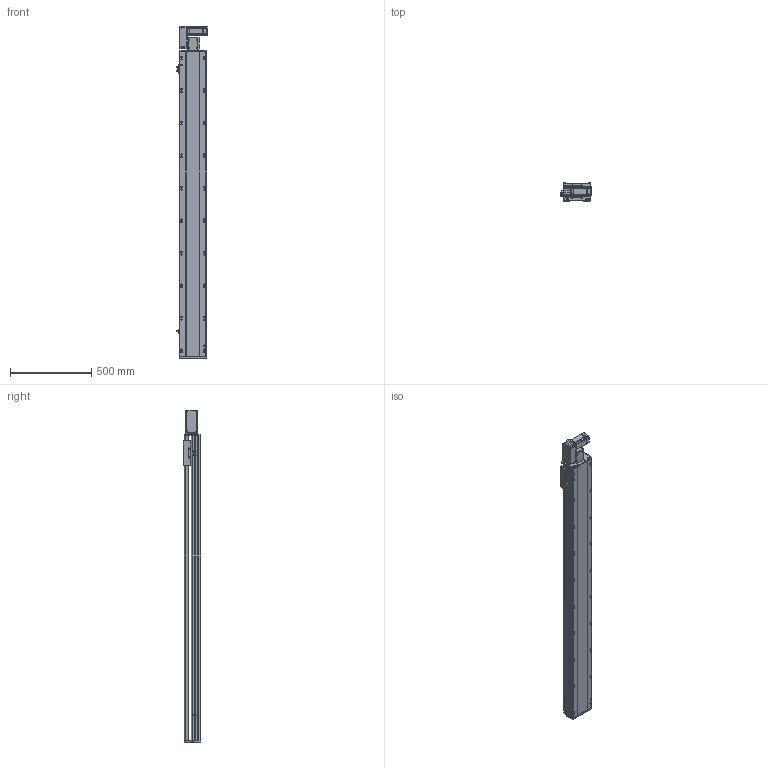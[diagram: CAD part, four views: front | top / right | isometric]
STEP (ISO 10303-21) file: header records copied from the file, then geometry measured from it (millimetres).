
FILE_DESCRIPTION (( 'STEP AP214' ), '1' );
FILE_NAME ('RTB17S-XX-1600-L-M40-C4.STEP', '2025-12-11T05:46:57', ( '' ), ( '' ), 'SwSTEP 2.0', 'SolidWorks 2018', '' );
FILE_SCHEMA (( 'AUTOMOTIVE_DESIGN' ));
Length unit declared in the file: millimetre
Products named in the file (14): RTB17S-XX-1600-L-M40-C4; RMP17S-L-014-T20--皮带座^RTB17S-L-皮带座装配-400W_RTB17S-XX-XX-L-M40-C4（方程式）; RTB17S-L-004丝杆螺母连接座^RTB17S-XX-XX-L-M40-C4（方程式）; RTB14-L-017P^RTB17S-L-皮带座装配-400W_RTB17S-XX-XX-L-M40-C4（方程式）; RTB17S-L-001侧面板^RTB17S-XX-XX-L-M40-C4（方程式）; RTB14-L-005P--轴承塑胶压盖^RTB17S-L-皮带座装配-400W_RTB17S-XX-XX-L-M40-C4（方程式）; RTB17S-L-007上盖^RTB17S-XX-XX-L-M40-C4（方程式）; 400W伺服电机^RTB17S-XX-XX-L-M40-C4（方程式）; RTB14-L-018P^RTB17S-L-皮带座装配-400W_RTB17S-XX-XX-L-M40-C4（方程式）; RTB17-R-011底座^RTB17S-XX-XX-L-M40-C4（方程式）; RTH13-BL-012感应片外置^RTB17S-XX-XX-L-M40-C4（方程式）; RTB17S-L-皮带座装配-400W^RTB17S-XX-XX-L-M40-C4（方程式）; OMRON EE-SX672 传感器^RTB17S-XX-XX-L-M40-C4（方程式）; RTB14-L-008-M20--电机板^RTB17S-L-皮带座装配-400W_RTB17S-XX-XX-L-M40-C4（方程式）
Assembly tree (16 placements, depth 3):
  RTB17S-XX-1600-L-M40-C4
    RTB17-R-011底座^RTB17S-XX-XX-L-M40-C4（方程式）
    RTB17S-L-007上盖^RTB17S-XX-XX-L-M40-C4（方程式）
    OMRON EE-SX672 传感器^RTB17S-XX-XX-L-M40-C4（方程式）  x3
    RTB17S-L-001侧面板^RTB17S-XX-XX-L-M40-C4（方程式）
    400W伺服电机^RTB17S-XX-XX-L-M40-C4（方程式）
    RTB17S-L-004丝杆螺母连接座^RTB17S-XX-XX-L-M40-C4（方程式）
    RTH13-BL-012感应片外置^RTB17S-XX-XX-L-M40-C4（方程式）
    RTB17S-L-皮带座装配-400W^RTB17S-XX-XX-L-M40-C4（方程式）
      RMP17S-L-014-T20--皮带座^RTB17S-L-皮带座装配-400W_RTB17S-XX-XX-L-M40-C4（方程式）
      RTB14-L-005P--轴承塑胶压盖^RTB17S-L-皮带座装配-400W_RTB17S-XX-XX-L-M40-C4（方程式）
      RTB14-L-008-M20--电机板^RTB17S-L-皮带座装配-400W_RTB17S-XX-XX-L-M40-C4（方程式）
      RTB14-L-017P^RTB17S-L-皮带座装配-400W_RTB17S-XX-XX-L-M40-C4（方程式）  x2
      RTB14-L-018P^RTB17S-L-皮带座装配-400W_RTB17S-XX-XX-L-M40-C4（方程式）
Bounding box: 186 x 108 x 2041 mm (x, y, z)
Volume: 17269930.2 mm3; surface area: 2030740.4 mm2
Topology: 15 solids, 15 shells, 2253 faces, 6249 edges, 4077 vertices
Faces by surface type: plane 1074, cylinder 731, bspline 301, cone 139, torus 8
Entity records: 64937 total; most frequent: CARTESIAN_POINT 18254, ORIENTED_EDGE 9342, DIRECTION 8666, EDGE_CURVE 4671, VERTEX_POINT 3065, AXIS2_PLACEMENT_3D 2995, VECTOR 2676, LINE 2676
